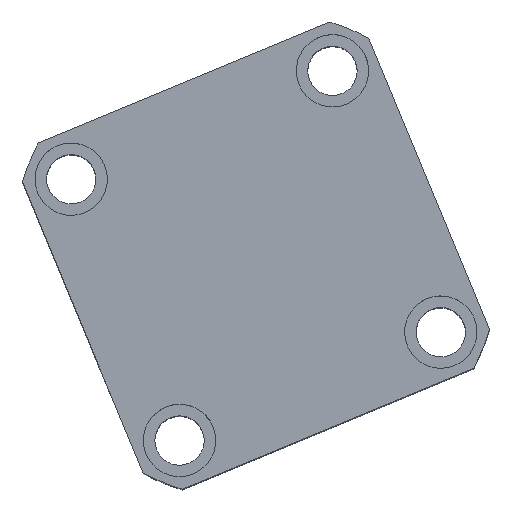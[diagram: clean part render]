
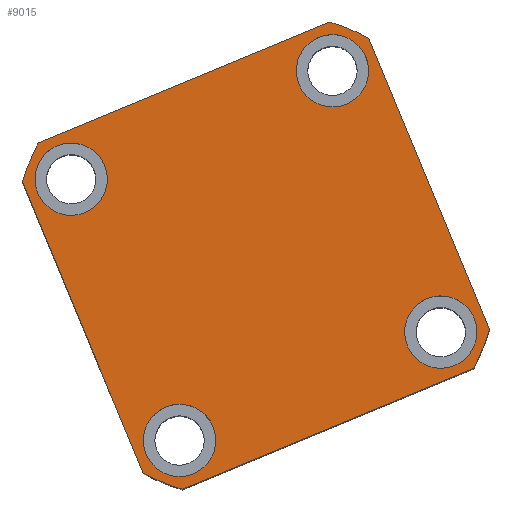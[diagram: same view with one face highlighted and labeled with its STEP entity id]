
A CAD part, top view. The second image highlights one B-rep face of the part: STEP entity #9015.
In plain terms, the highlighted planar face has unit normal (0, 0, 1) as drawn and (0, 0, -1) by its records, which use the part's own axes.
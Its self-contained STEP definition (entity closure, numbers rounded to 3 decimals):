
#173 = DIRECTION ( 'NONE',  ( -1., 0., 0. ) ) ;
#206 = CARTESIAN_POINT ( 'NONE',  ( 0., 0., 0. ) ) ;
#318 = VERTEX_POINT ( 'NONE', #11355 ) ;
#394 = CARTESIAN_POINT ( 'NONE',  ( 0., 0., 0. ) ) ;
#555 = VERTEX_POINT ( 'NONE', #10644 ) ;
#783 = FACE_OUTER_BOUND ( 'NONE', #5228, .T. ) ;
#1040 = DIRECTION ( 'NONE',  ( -1., 0., 0. ) ) ;
#1293 = ORIENTED_EDGE ( 'NONE', *, *, #11159, .F. ) ;
#1403 = DIRECTION ( 'NONE',  ( 1., 0., 0. ) ) ;
#1412 = EDGE_CURVE ( 'NONE', #1626, #9310, #13032, .T. ) ;
#1458 = ORIENTED_EDGE ( 'NONE', *, *, #12311, .F. ) ;
#1474 = ORIENTED_EDGE ( 'NONE', *, *, #2917, .F. ) ;
#1495 = AXIS2_PLACEMENT_3D ( 'NONE', #13103, #5990, #14172 ) ;
#1626 = VERTEX_POINT ( 'NONE', #3124 ) ;
#1673 = ORIENTED_EDGE ( 'NONE', *, *, #10872, .F. ) ;
#1697 = ORIENTED_EDGE ( 'NONE', *, *, #7093, .F. ) ;
#1883 = VECTOR ( 'NONE', #12510, 1000. ) ;
#2290 = VECTOR ( 'NONE', #7237, 1000. ) ;
#2307 = CIRCLE ( 'NONE', #4541, 74.5 ) ;
#2371 = AXIS2_PLACEMENT_3D ( 'NONE', #206, #8628, #1403 ) ;
#2427 = CARTESIAN_POINT ( 'NONE',  ( -57., -57., 0. ) ) ;
#2475 = VERTEX_POINT ( 'NONE', #6830 ) ;
#2482 = CARTESIAN_POINT ( 'NONE',  ( 43., 43., 0. ) ) ;
#2597 = CARTESIAN_POINT ( 'NONE',  ( 0., 0., 0. ) ) ;
#2615 = DIRECTION ( 'NONE',  ( 0., 0., 1. ) ) ;
#2630 = DIRECTION ( 'NONE',  ( 1., 0., 0. ) ) ;
#2885 = VERTEX_POINT ( 'NONE', #9217 ) ;
#2917 = EDGE_CURVE ( 'NONE', #3175, #10259, #7711, .T. ) ;
#3124 = CARTESIAN_POINT ( 'NONE',  ( -57., -47.971, 0. ) ) ;
#3128 = DIRECTION ( 'NONE',  ( 0., 0., -1. ) ) ;
#3175 = VERTEX_POINT ( 'NONE', #10801 ) ;
#3298 = ORIENTED_EDGE ( 'NONE', *, *, #5795, .F. ) ;
#3329 = CARTESIAN_POINT ( 'NONE',  ( 54., -43., 0. ) ) ;
#3378 = EDGE_LOOP ( 'NONE', ( #1458, #13808 ) ) ;
#3427 = LINE ( 'NONE', #2427, #9459 ) ;
#3674 = DIRECTION ( 'NONE',  ( -1., 0., 0. ) ) ;
#3739 = VERTEX_POINT ( 'NONE', #9774 ) ;
#3762 = LINE ( 'NONE', #13272, #15077 ) ;
#3836 = DIRECTION ( 'NONE',  ( 0., 0., -1. ) ) ;
#3938 = CIRCLE ( 'NONE', #14957, 11. ) ;
#3976 = FACE_BOUND ( 'NONE', #12347, .T. ) ;
#4111 = EDGE_CURVE ( 'NONE', #2475, #13021, #3938, .T. ) ;
#4176 = CARTESIAN_POINT ( 'NONE',  ( -57., 57., 0. ) ) ;
#4190 = AXIS2_PLACEMENT_3D ( 'NONE', #11003, #3836, #12195 ) ;
#4298 = DIRECTION ( 'NONE',  ( 0., 0., 1. ) ) ;
#4491 = VERTEX_POINT ( 'NONE', #15161 ) ;
#4541 = AXIS2_PLACEMENT_3D ( 'NONE', #11464, #4298, #12644 ) ;
#4633 = AXIS2_PLACEMENT_3D ( 'NONE', #10325, #3128, #11505 ) ;
#5089 = LINE ( 'NONE', #4176, #1883 ) ;
#5166 = CARTESIAN_POINT ( 'NONE',  ( -43., -43., 0. ) ) ;
#5215 = CARTESIAN_POINT ( 'NONE',  ( -57., 47.971, 0. ) ) ;
#5228 = EDGE_LOOP ( 'NONE', ( #1474, #12371, #1673, #1697, #10076, #10127, #6719, #1293 ) ) ;
#5241 = AXIS2_PLACEMENT_3D ( 'NONE', #394, #6467, #14571 ) ;
#5503 = AXIS2_PLACEMENT_3D ( 'NONE', #13608, #6572, #14675 ) ;
#5680 = ORIENTED_EDGE ( 'NONE', *, *, #4111, .F. ) ;
#5734 = ORIENTED_EDGE ( 'NONE', *, *, #10789, .F. ) ;
#5795 = EDGE_CURVE ( 'NONE', #13021, #2475, #7679, .T. ) ;
#5990 = DIRECTION ( 'NONE',  ( 0., 0., -1. ) ) ;
#6161 = ORIENTED_EDGE ( 'NONE', *, *, #8654, .F. ) ;
#6280 = CARTESIAN_POINT ( 'NONE',  ( -43., 43., 0. ) ) ;
#6332 = CARTESIAN_POINT ( 'NONE',  ( -32., 43., 0. ) ) ;
#6394 = DIRECTION ( 'NONE',  ( -1., 0., 0. ) ) ;
#6467 = DIRECTION ( 'NONE',  ( 0., 0., 1. ) ) ;
#6572 = DIRECTION ( 'NONE',  ( 0., 0., -1. ) ) ;
#6719 = ORIENTED_EDGE ( 'NONE', *, *, #7582, .F. ) ;
#6830 = CARTESIAN_POINT ( 'NONE',  ( 32., -43., 0. ) ) ;
#7093 = EDGE_CURVE ( 'NONE', #9310, #8858, #3427, .T. ) ;
#7152 = EDGE_LOOP ( 'NONE', ( #6161, #5734 ) ) ;
#7174 = FACE_BOUND ( 'NONE', #3378, .T. ) ;
#7225 = CIRCLE ( 'NONE', #4190, 11. ) ;
#7237 = DIRECTION ( 'NONE',  ( 0., 1., 0. ) ) ;
#7473 = DIRECTION ( 'NONE',  ( -1., 0., 0. ) ) ;
#7582 = EDGE_CURVE ( 'NONE', #3739, #13422, #2307, .T. ) ;
#7679 = CIRCLE ( 'NONE', #4633, 11. ) ;
#7711 = CIRCLE ( 'NONE', #9950, 74.5 ) ;
#7788 = CIRCLE ( 'NONE', #5503, 11. ) ;
#8247 = DIRECTION ( 'NONE',  ( 0., 0., -1. ) ) ;
#8628 = DIRECTION ( 'NONE',  ( 0., 0., 1. ) ) ;
#8654 = EDGE_CURVE ( 'NONE', #2885, #4491, #9817, .T. ) ;
#8684 = LINE ( 'NONE', #14219, #2290 ) ;
#8692 = EDGE_CURVE ( 'NONE', #9047, #3175, #8684, .T. ) ;
#8858 = VERTEX_POINT ( 'NONE', #12121 ) ;
#8927 = ORIENTED_EDGE ( 'NONE', *, *, #13320, .F. ) ;
#9015 = ADVANCED_FACE ( 'NONE', ( #13433, #3976, #10353, #7174, #783 ), #11183, .F. ) ;
#9047 = VERTEX_POINT ( 'NONE', #12426 ) ;
#9217 = CARTESIAN_POINT ( 'NONE',  ( 32., 43., 0. ) ) ;
#9288 = CARTESIAN_POINT ( 'NONE',  ( 0., 0., 0. ) ) ;
#9304 = DIRECTION ( 'NONE',  ( 0., 0., 1. ) ) ;
#9310 = VERTEX_POINT ( 'NONE', #10312 ) ;
#9324 = DIRECTION ( 'NONE',  ( 1., 0., 0. ) ) ;
#9459 = VECTOR ( 'NONE', #14240, 1000. ) ;
#9774 = CARTESIAN_POINT ( 'NONE',  ( -47.971, 57., 0. ) ) ;
#9817 = CIRCLE ( 'NONE', #1495, 11. ) ;
#9830 = AXIS2_PLACEMENT_3D ( 'NONE', #6280, #14419, #7473 ) ;
#9950 = AXIS2_PLACEMENT_3D ( 'NONE', #9288, #9304, #9324 ) ;
#10076 = ORIENTED_EDGE ( 'NONE', *, *, #1412, .F. ) ;
#10100 = EDGE_CURVE ( 'NONE', #13422, #1626, #5089, .T. ) ;
#10127 = ORIENTED_EDGE ( 'NONE', *, *, #10100, .F. ) ;
#10259 = VERTEX_POINT ( 'NONE', #14791 ) ;
#10312 = CARTESIAN_POINT ( 'NONE',  ( -47.971, -57., 0. ) ) ;
#10325 = CARTESIAN_POINT ( 'NONE',  ( 43., -43., 0. ) ) ;
#10331 = EDGE_LOOP ( 'NONE', ( #11726, #8927 ) ) ;
#10353 = FACE_BOUND ( 'NONE', #7152, .T. ) ;
#10411 = CIRCLE ( 'NONE', #9830, 11. ) ;
#10534 = CIRCLE ( 'NONE', #2371, 74.5 ) ;
#10644 = CARTESIAN_POINT ( 'NONE',  ( -32., -43., 0. ) ) ;
#10789 = EDGE_CURVE ( 'NONE', #4491, #2885, #14581, .T. ) ;
#10801 = CARTESIAN_POINT ( 'NONE',  ( 57., 47.971, 0. ) ) ;
#10859 = DIRECTION ( 'NONE',  ( 0., 0., -1. ) ) ;
#10872 = EDGE_CURVE ( 'NONE', #8858, #9047, #10534, .T. ) ;
#11003 = CARTESIAN_POINT ( 'NONE',  ( -43., 43., 0. ) ) ;
#11159 = EDGE_CURVE ( 'NONE', #10259, #3739, #3762, .T. ) ;
#11183 = PLANE ( 'NONE',  #5241 ) ;
#11355 = CARTESIAN_POINT ( 'NONE',  ( -54., 43., 0. ) ) ;
#11464 = CARTESIAN_POINT ( 'NONE',  ( 0., 0., 0. ) ) ;
#11505 = DIRECTION ( 'NONE',  ( -1., 0., 0. ) ) ;
#11726 = ORIENTED_EDGE ( 'NONE', *, *, #12694, .F. ) ;
#12121 = CARTESIAN_POINT ( 'NONE',  ( 47.971, -57., 0. ) ) ;
#12195 = DIRECTION ( 'NONE',  ( -1., 0., 0. ) ) ;
#12257 = EDGE_CURVE ( 'NONE', #12420, #318, #7225, .T. ) ;
#12270 = AXIS2_PLACEMENT_3D ( 'NONE', #2482, #10859, #3674 ) ;
#12311 = EDGE_CURVE ( 'NONE', #318, #12420, #10411, .T. ) ;
#12347 = EDGE_LOOP ( 'NONE', ( #5680, #3298 ) ) ;
#12356 = CARTESIAN_POINT ( 'NONE',  ( -54., -43., 0. ) ) ;
#12371 = ORIENTED_EDGE ( 'NONE', *, *, #8692, .F. ) ;
#12420 = VERTEX_POINT ( 'NONE', #6332 ) ;
#12426 = CARTESIAN_POINT ( 'NONE',  ( 57., -47.971, 0. ) ) ;
#12510 = DIRECTION ( 'NONE',  ( 0., -1., 0. ) ) ;
#12644 = DIRECTION ( 'NONE',  ( 1., 0., 0. ) ) ;
#12694 = EDGE_CURVE ( 'NONE', #13403, #555, #7788, .T. ) ;
#12776 = CIRCLE ( 'NONE', #14377, 11. ) ;
#13021 = VERTEX_POINT ( 'NONE', #3329 ) ;
#13032 = CIRCLE ( 'NONE', #13588, 74.5 ) ;
#13103 = CARTESIAN_POINT ( 'NONE',  ( 43., 43., 0. ) ) ;
#13272 = CARTESIAN_POINT ( 'NONE',  ( -57., 57., 0. ) ) ;
#13320 = EDGE_CURVE ( 'NONE', #555, #13403, #12776, .T. ) ;
#13403 = VERTEX_POINT ( 'NONE', #12356 ) ;
#13422 = VERTEX_POINT ( 'NONE', #5215 ) ;
#13433 = FACE_BOUND ( 'NONE', #10331, .T. ) ;
#13441 = DIRECTION ( 'NONE',  ( 0., 0., -1. ) ) ;
#13588 = AXIS2_PLACEMENT_3D ( 'NONE', #2597, #2615, #2630 ) ;
#13608 = CARTESIAN_POINT ( 'NONE',  ( -43., -43., 0. ) ) ;
#13808 = ORIENTED_EDGE ( 'NONE', *, *, #12257, .F. ) ;
#14172 = DIRECTION ( 'NONE',  ( -1., 0., 0. ) ) ;
#14219 = CARTESIAN_POINT ( 'NONE',  ( 57., 57., 0. ) ) ;
#14240 = DIRECTION ( 'NONE',  ( 1., 0., 0. ) ) ;
#14377 = AXIS2_PLACEMENT_3D ( 'NONE', #5166, #13441, #6394 ) ;
#14419 = DIRECTION ( 'NONE',  ( 0., 0., -1. ) ) ;
#14571 = DIRECTION ( 'NONE',  ( 1., 0., 0. ) ) ;
#14581 = CIRCLE ( 'NONE', #12270, 11. ) ;
#14675 = DIRECTION ( 'NONE',  ( -1., 0., 0. ) ) ;
#14791 = CARTESIAN_POINT ( 'NONE',  ( 47.971, 57., 0. ) ) ;
#14957 = AXIS2_PLACEMENT_3D ( 'NONE', #15098, #8247, #1040 ) ;
#15077 = VECTOR ( 'NONE', #173, 1000. ) ;
#15098 = CARTESIAN_POINT ( 'NONE',  ( 43., -43., 0. ) ) ;
#15161 = CARTESIAN_POINT ( 'NONE',  ( 54., 43., 0. ) ) ;
